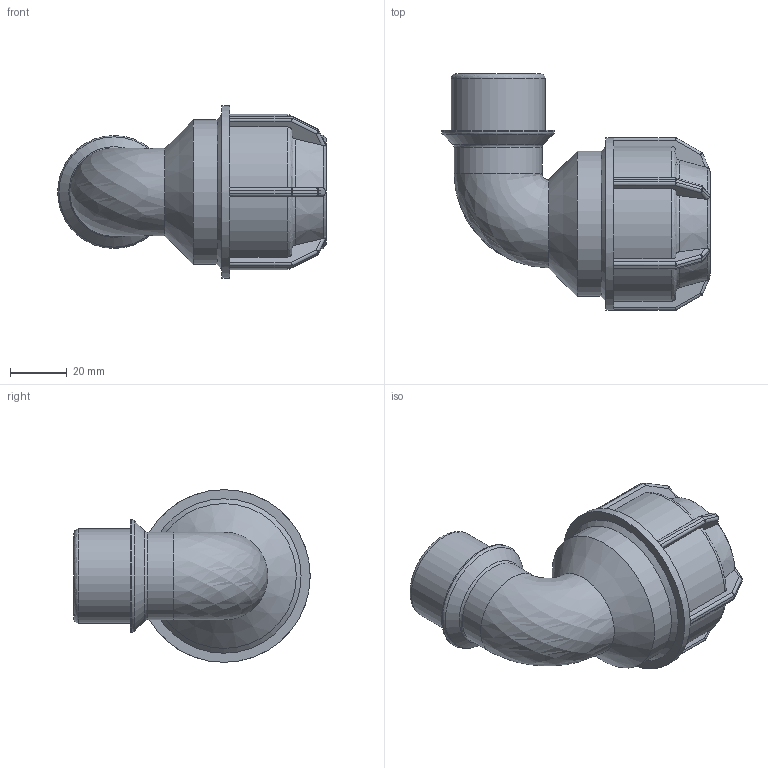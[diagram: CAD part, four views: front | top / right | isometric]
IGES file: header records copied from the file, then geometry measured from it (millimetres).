
Global section: file name: 148500032010.ipt; native system: Autodesk Inventor 2015; preprocessor: unknown; author: KIM; date: 20180409.131248; units: millimetre
Bounding box: 94.95 x 83.5 x 61 mm (x, y, z)
Volume: 85035.4 mm3; surface area: 31636.3 mm2
Topology: 1 solids, 1 shells, 213 faces, 509 edges, 297 vertices
Faces by surface type: plane 98, cylinder 59, sphere 24, revolution 23, cone 9
Full cylindrical faces by diameter (mm): 31.088 x1, 33.249 x1, 39.899 x1, 51.2 x1, 61 x1
